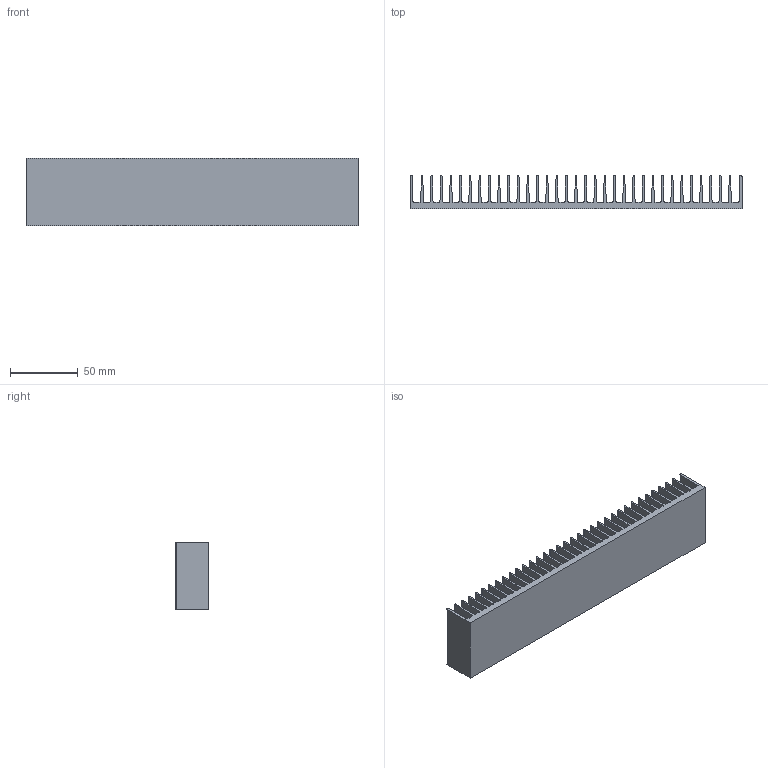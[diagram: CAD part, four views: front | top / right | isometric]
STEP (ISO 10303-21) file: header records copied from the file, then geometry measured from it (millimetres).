
FILE_DESCRIPTION (( 'STEP AP203' ), '1' );
FILE_NAME ('PR 166-50.step', '2002-10-21T08:01:05', ( 'Wolfgang Müller' ), ( 'DPS' ), 'SwSTEP 2.0', 'SolidWorks 2002264', '' );
FILE_SCHEMA (( 'CONFIG_CONTROL_DESIGN' ));
Length unit declared in the file: millimetre
Products named in the file (1): PR 166-50
Bounding box: 245 x 25 x 50 mm (x, y, z)
Volume: 114294.9 mm3; surface area: 96460.5 mm2
Topology: 1 solids, 1 shells, 210 faces, 624 edges, 416 vertices
Faces by surface type: plane 107, cylinder 103
Entity records: 7171 total; most frequent: DIRECTION 1252, CARTESIAN_POINT 1251, ORIENTED_EDGE 1248, EDGE_CURVE 624, LINE 418, VECTOR 418, AXIS2_PLACEMENT_3D 417, VERTEX_POINT 416
